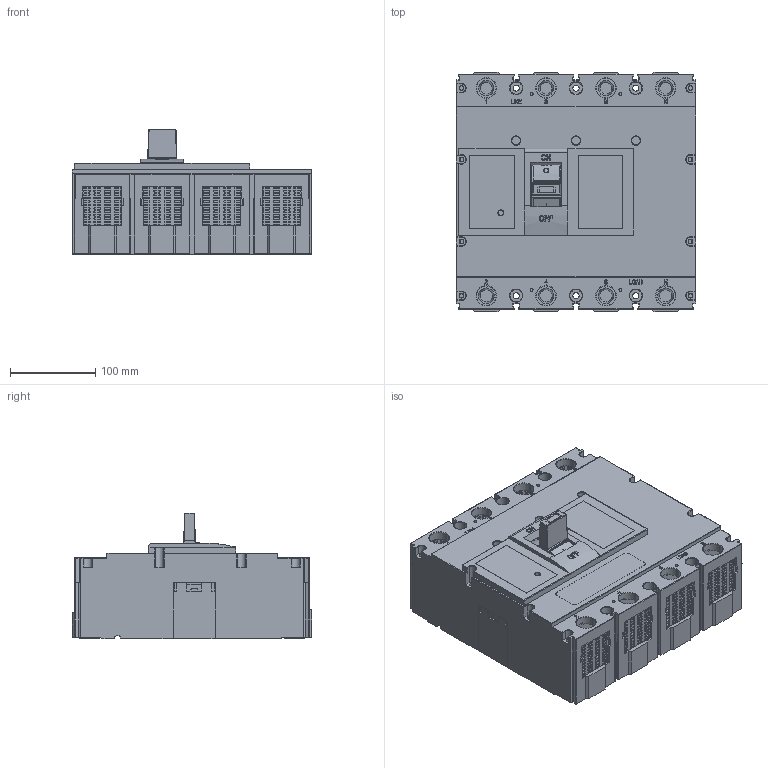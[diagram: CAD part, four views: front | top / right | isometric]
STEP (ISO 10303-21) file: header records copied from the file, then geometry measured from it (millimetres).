
FILE_DESCRIPTION((''),'2;1');
FILE_NAME('2258201300-CDM3-800-4_SW0001','2019-10-22T',('gang.sun'),(''),'PRO/ENGINEER BY PARAMETRIC TECHNOLOGY CORPORATION, 2015440','PRO/ENGINEER BY PARAMETRIC TECHNOLOGY CORPORATION, 2015440','');
FILE_SCHEMA(('CONFIG_CONTROL_DESIGN'));
Products named in the file (1): 2258201300-CDM3-800-4_SW0001
Bounding box: 280 x 280 x 147.3 mm (x, y, z)
Volume: 6537858.4 mm3; surface area: 602191.9 mm2
Topology: 1 solids, 1 shells, 4577 faces, 13284 edges, 8705 vertices
Faces by surface type: plane 3061, cylinder 1327, torus 76, sphere 53, cone 36, bspline 18, extrusion 6
Entity records: 154008 total; most frequent: CARTESIAN_POINT 29348, ORIENTED_EDGE 26466, DIRECTION 25208, EDGE_CURVE 13233, VECTOR 9898, LINE 9892, VERTEX_POINT 8705, AXIS2_PLACEMENT_3D 7655
